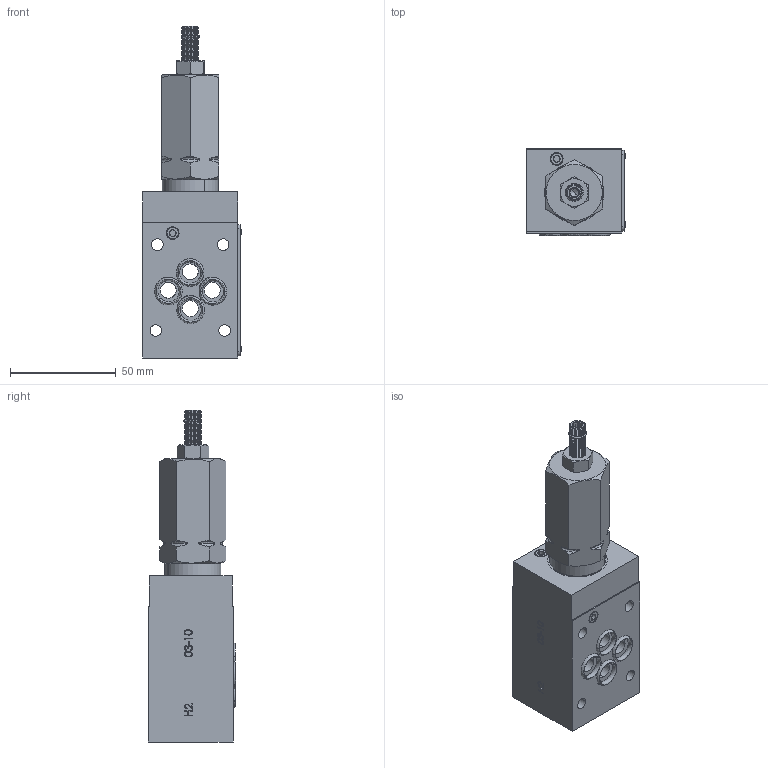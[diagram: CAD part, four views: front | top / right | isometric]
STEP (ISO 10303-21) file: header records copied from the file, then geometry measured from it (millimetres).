
FILE_DESCRIPTION (( 'STEP AP214' ), '1' );
FILE_NAME ('ASSIEME 379-4-A.STEP', '2019-10-14T08:49:00', ( '' ), ( '' ), 'SwSTEP 2.0', 'SolidWorks 2018', '' );
FILE_SCHEMA (( 'AUTOMOTIVE_DESIGN' ));
Length unit declared in the file: millimetre
Products named in the file (23): TARGHETTA 379-4-A.015.00.0-03; ASSIEME 379-4-A; OR 108; OR 2037; BK2050; ANELLO DI SICUREZZA RB7 DIN  7993; CORPO CARTUCCIA 279-4.101.00.0-78; PISTONE OTTURATORE 276-4.050.00.0-78; OR  3075; OR2050-1; VITE DI REGOLAZIONE 276-4.017.00.0-78; PISTONE 279-4.019.00.0-78; MOLLA COMPENSATORE 276-4.030.00-1-78; O-RING 2037; BUSSOLA DI TENUTA 276-4.018.00.0-78; RIVETTO D=2 x L=4.6 TAPDM1BS LD FASTENERS; TAPPO EIS ETRS060SM UNIFAST; CORPO VALVOLA 379-3-A.001.00.0; SFERA D= 4mm; MOLLA CILINDRICA 276-4.009.00.1-78; ASSIEME 279-4-78-UNF; DADO ESAGONALE M8x1 Sp.6.5 mm; BUSSOLA 279-4.034.00.0-78
Assembly tree (30 placements, depth 3):
  ASSIEME 379-4-A
    O-RING 2037  x4
    TARGHETTA 379-4-A.015.00.0-03
    RIVETTO D=2 x L=4.6 TAPDM1BS LD FASTENERS  x4
    TAPPO EIS ETRS060SM UNIFAST  x2
    CORPO VALVOLA 379-3-A.001.00.0
    ASSIEME 279-4-78-UNF
      CORPO CARTUCCIA 279-4.101.00.0-78
      BK2050  x2
      OR2050-1
      BUSSOLA 279-4.034.00.0-78
      PISTONE 279-4.019.00.0-78
      ANELLO DI SICUREZZA RB7 DIN  7993
      BUSSOLA DI TENUTA 276-4.018.00.0-78
      DADO ESAGONALE M8x1 Sp.6.5 mm
      MOLLA CILINDRICA 276-4.009.00.1-78
      MOLLA COMPENSATORE 276-4.030.00-1-78
      OR  3075
      OR 108
      OR 2037
      PISTONE OTTURATORE 276-4.050.00.0-78
      SFERA D= 4mm
      VITE DI REGOLAZIONE 276-4.017.00.0-78
Bounding box: 46.66 x 41.16 x 156.8 mm (x, y, z)
Volume: 158672.2 mm3; surface area: 56348.7 mm2
Topology: 29 solids, 29 shells, 2490 faces, 6059 edges, 3822 vertices
Faces by surface type: plane 1151, cone 596, bspline 394, cylinder 293, torus 46, sphere 10
Entity records: 97311 total; most frequent: CARTESIAN_POINT 41288, ORIENTED_EDGE 11572, DIRECTION 9955, EDGE_CURVE 5786, VECTOR 3663, VERTEX_POINT 3663, LINE 3663, AXIS2_PLACEMENT_3D 3146
